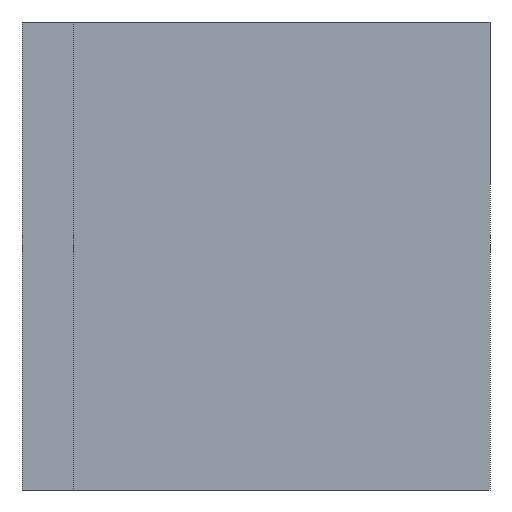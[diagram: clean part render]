
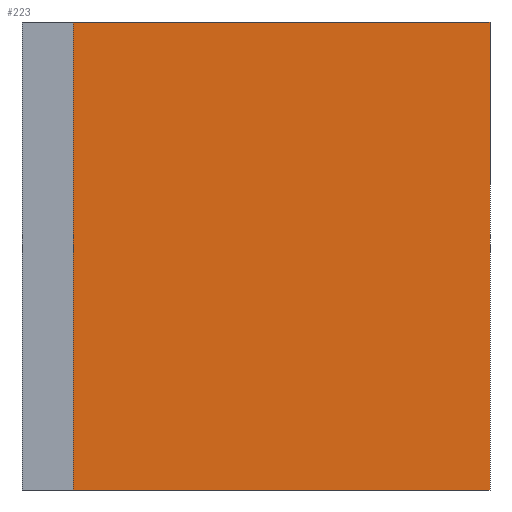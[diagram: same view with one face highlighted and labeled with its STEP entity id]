
A CAD part, left-side view. The second image highlights one B-rep face of the part: STEP entity #223.
In plain terms, the highlighted planar face has unit normal (-1, 0, 0).
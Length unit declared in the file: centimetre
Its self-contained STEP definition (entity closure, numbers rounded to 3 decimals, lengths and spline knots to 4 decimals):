
#2 = VERTEX_POINT ( 'NONE', #257 ) ;
#3 = VECTOR ( 'NONE', #156, 100. ) ;
#28 = CARTESIAN_POINT ( 'NONE',  ( 0., 1000., 0. ) ) ;
#30 = ORIENTED_EDGE ( 'NONE', *, *, #806, .T. ) ;
#33 = CARTESIAN_POINT ( 'NONE',  ( 0., 890.1403, 0. ) ) ;
#126 = CARTESIAN_POINT ( 'NONE',  ( 0., 1000., 1000. ) ) ;
#146 = VECTOR ( 'NONE', #995, 100. ) ;
#156 = DIRECTION ( 'NONE',  ( 0., 0., 1. ) ) ;
#195 = CARTESIAN_POINT ( 'NONE',  ( 0., 0., 1000. ) ) ;
#223 = ADVANCED_FACE ( 'NONE', ( #1349 ), #1207, .F. ) ;
#235 = DIRECTION ( 'NONE',  ( 0., 0., -1. ) ) ;
#257 = CARTESIAN_POINT ( 'NONE',  ( 0., 890.1403, 0. ) ) ;
#268 = VECTOR ( 'NONE', #809, 100. ) ;
#269 = LINE ( 'NONE', #33, #3 ) ;
#561 = LINE ( 'NONE', #126, #1332 ) ;
#565 = ORIENTED_EDGE ( 'NONE', *, *, #733, .F. ) ;
#567 = DIRECTION ( 'NONE',  ( 1., 0., 0. ) ) ;
#611 = VERTEX_POINT ( 'NONE', #195 ) ;
#665 = CARTESIAN_POINT ( 'NONE',  ( 0., 1000., 1000. ) ) ;
#733 = EDGE_CURVE ( 'NONE', #611, #740, #1343, .T. ) ;
#740 = VERTEX_POINT ( 'NONE', #1129 ) ;
#766 = EDGE_CURVE ( 'NONE', #1396, #611, #561, .T. ) ;
#806 = EDGE_CURVE ( 'NONE', #2, #740, #1146, .T. ) ;
#809 = DIRECTION ( 'NONE',  ( 0., -1., 0. ) ) ;
#850 = EDGE_CURVE ( 'NONE', #2, #1396, #269, .T. ) ;
#995 = DIRECTION ( 'NONE',  ( 0., 0., -1. ) ) ;
#1003 = DIRECTION ( 'NONE',  ( 0., -1., 0. ) ) ;
#1052 = ORIENTED_EDGE ( 'NONE', *, *, #766, .F. ) ;
#1053 = ORIENTED_EDGE ( 'NONE', *, *, #850, .F. ) ;
#1091 = EDGE_LOOP ( 'NONE', ( #1052, #1053, #30, #565 ) ) ;
#1129 = CARTESIAN_POINT ( 'NONE',  ( 0., 0., 0. ) ) ;
#1146 = LINE ( 'NONE', #28, #268 ) ;
#1207 = PLANE ( 'NONE',  #1426 ) ;
#1222 = CARTESIAN_POINT ( 'NONE',  ( 0., 890.1403, 1000. ) ) ;
#1245 = CARTESIAN_POINT ( 'NONE',  ( 0., 0., 1000. ) ) ;
#1332 = VECTOR ( 'NONE', #1003, 100. ) ;
#1343 = LINE ( 'NONE', #1245, #146 ) ;
#1349 = FACE_OUTER_BOUND ( 'NONE', #1091, .T. ) ;
#1396 = VERTEX_POINT ( 'NONE', #1222 ) ;
#1426 = AXIS2_PLACEMENT_3D ( 'NONE', #665, #567, #235 ) ;
